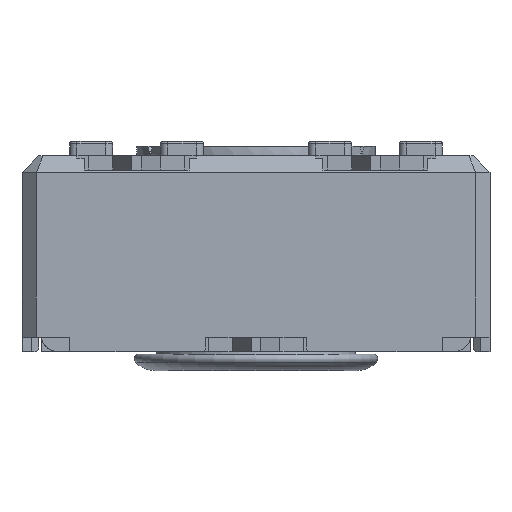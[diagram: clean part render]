
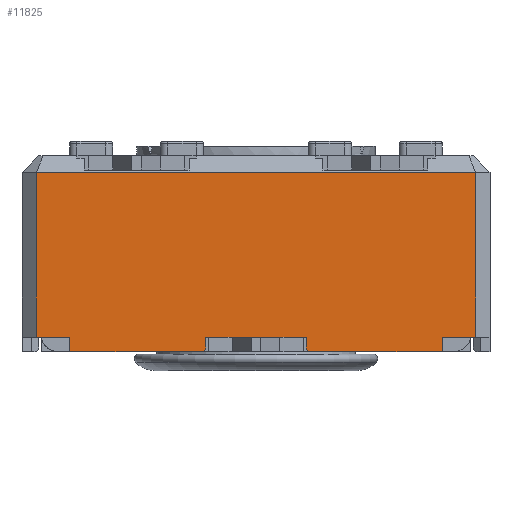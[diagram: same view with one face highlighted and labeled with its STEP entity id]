
A CAD part, front view. The second image highlights one B-rep face of the part: STEP entity #11825.
In plain terms, the highlighted planar face has unit normal (0, -1, 0).
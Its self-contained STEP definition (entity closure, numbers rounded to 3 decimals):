
#917=PLANE('',#12707);
#1512=FACE_OUTER_BOUND('',#2123,.T.);
#2123=EDGE_LOOP('',(#11009,#11010,#11011,#11012,#11013,#11014,#11015,#11016,
#11017,#11018,#11019,#11020,#11021,#11022,#11023,#11024));
#2670=LINE('',#17367,#4046);
#2772=LINE('',#17583,#4148);
#2778=LINE('',#17595,#4154);
#2786=LINE('',#17611,#4162);
#2792=LINE('',#17622,#4168);
#2984=LINE('',#18199,#4360);
#2990=LINE('',#18209,#4366);
#2993=LINE('',#18216,#4369);
#3006=LINE('',#18241,#4382);
#3062=LINE('',#18349,#4438);
#3064=LINE('',#18354,#4440);
#3066=LINE('',#18357,#4442);
#3068=LINE('',#18362,#4444);
#3254=LINE('',#18807,#4630);
#3497=LINE('',#19368,#4873);
#3499=LINE('',#19375,#4875);
#4046=VECTOR('',#13948,10.);
#4148=VECTOR('',#14128,10.);
#4154=VECTOR('',#14134,10.);
#4162=VECTOR('',#14144,10.);
#4168=VECTOR('',#14150,10.);
#4360=VECTOR('',#14674,10.);
#4366=VECTOR('',#14682,10.);
#4369=VECTOR('',#14689,10.);
#4382=VECTOR('',#14710,10.);
#4438=VECTOR('',#14810,10.);
#4440=VECTOR('',#14818,10.);
#4442=VECTOR('',#14822,10.);
#4444=VECTOR('',#14830,10.);
#4630=VECTOR('',#15254,10.);
#4873=VECTOR('',#15793,10.);
#4875=VECTOR('',#15805,10.);
#5378=VERTEX_POINT('',#17361);
#5379=VERTEX_POINT('',#17365);
#5454=VERTEX_POINT('',#17582);
#5459=VERTEX_POINT('',#17592);
#5460=VERTEX_POINT('',#17594);
#5466=VERTEX_POINT('',#17608);
#5467=VERTEX_POINT('',#17610);
#5472=VERTEX_POINT('',#17620);
#5636=VERTEX_POINT('',#18197);
#5637=VERTEX_POINT('',#18198);
#5640=VERTEX_POINT('',#18207);
#5641=VERTEX_POINT('',#18214);
#5642=VERTEX_POINT('',#18215);
#5650=VERTEX_POINT('',#18240);
#5795=VERTEX_POINT('',#18804);
#5796=VERTEX_POINT('',#18806);
#6669=EDGE_CURVE('',#5378,#5379,#2670,.T.);
#6777=EDGE_CURVE('',#5454,#5378,#2772,.T.);
#6783=EDGE_CURVE('',#5460,#5459,#2778,.T.);
#6791=EDGE_CURVE('',#5467,#5466,#2786,.T.);
#6797=EDGE_CURVE('',#5379,#5472,#2792,.T.);
#7067=EDGE_CURVE('',#5636,#5637,#2984,.T.);
#7073=EDGE_CURVE('',#5636,#5640,#2990,.T.);
#7076=EDGE_CURVE('',#5641,#5642,#2993,.T.);
#7089=EDGE_CURVE('',#5650,#5642,#3006,.T.);
#7145=EDGE_CURVE('',#5454,#5641,#3062,.T.);
#7147=EDGE_CURVE('',#5459,#5650,#3064,.T.);
#7149=EDGE_CURVE('',#5467,#5640,#3066,.T.);
#7151=EDGE_CURVE('',#5472,#5637,#3068,.T.);
#7371=EDGE_CURVE('',#5795,#5796,#3254,.T.);
#7650=EDGE_CURVE('',#5796,#5466,#3497,.T.);
#7652=EDGE_CURVE('',#5795,#5460,#3499,.T.);
#11009=ORIENTED_EDGE('',*,*,#7067,.F.);
#11010=ORIENTED_EDGE('',*,*,#7073,.T.);
#11011=ORIENTED_EDGE('',*,*,#7149,.F.);
#11012=ORIENTED_EDGE('',*,*,#6791,.T.);
#11013=ORIENTED_EDGE('',*,*,#7650,.F.);
#11014=ORIENTED_EDGE('',*,*,#7371,.F.);
#11015=ORIENTED_EDGE('',*,*,#7652,.T.);
#11016=ORIENTED_EDGE('',*,*,#6783,.T.);
#11017=ORIENTED_EDGE('',*,*,#7147,.T.);
#11018=ORIENTED_EDGE('',*,*,#7089,.T.);
#11019=ORIENTED_EDGE('',*,*,#7076,.F.);
#11020=ORIENTED_EDGE('',*,*,#7145,.F.);
#11021=ORIENTED_EDGE('',*,*,#6777,.T.);
#11022=ORIENTED_EDGE('',*,*,#6669,.T.);
#11023=ORIENTED_EDGE('',*,*,#6797,.T.);
#11024=ORIENTED_EDGE('',*,*,#7151,.T.);
#11825=ADVANCED_FACE('',(#1512),#917,.T.);
#12707=AXIS2_PLACEMENT_3D('',#19376,#15806,#15807);
#13948=DIRECTION('',(1.,0.,0.));
#14128=DIRECTION('',(1.,0.,0.));
#14134=DIRECTION('',(1.,0.,0.));
#14144=DIRECTION('',(1.,0.,0.));
#14150=DIRECTION('',(1.,0.,0.));
#14674=DIRECTION('',(-0.707,0.,0.707));
#14682=DIRECTION('',(1.,0.,0.));
#14689=DIRECTION('',(-0.707,0.,-0.707));
#14710=DIRECTION('',(1.,0.,0.));
#14810=DIRECTION('',(0.,0.,-1.));
#14818=DIRECTION('',(0.,0.,-1.));
#14822=DIRECTION('',(0.,0.,-1.));
#14830=DIRECTION('',(0.,0.,-1.));
#15254=DIRECTION('',(1.,0.,0.));
#15793=DIRECTION('',(0.,0.,-1.));
#15805=DIRECTION('',(0.,0.,-1.));
#15806=DIRECTION('center_axis',(0.,-1.,0.));
#15807=DIRECTION('ref_axis',(0.,0.,-1.));
#17361=CARTESIAN_POINT('',(-27.448,-17.99,-3.8));
#17365=CARTESIAN_POINT('',(-25.448,-17.99,-3.8));
#17367=CARTESIAN_POINT('',(-21.848,-17.99,-3.8));
#17582=CARTESIAN_POINT('',(-27.498,-17.99,-3.8));
#17583=CARTESIAN_POINT('',(-21.848,-17.99,-3.8));
#17592=CARTESIAN_POINT('',(-30.348,-17.99,-3.8));
#17594=CARTESIAN_POINT('',(-31.048,-17.99,-3.8));
#17595=CARTESIAN_POINT('',(-21.848,-17.99,-3.8));
#17608=CARTESIAN_POINT('',(-21.848,-17.99,-3.8));
#17610=CARTESIAN_POINT('',(-22.548,-17.99,-3.8));
#17611=CARTESIAN_POINT('',(-21.848,-17.99,-3.8));
#17620=CARTESIAN_POINT('',(-25.398,-17.99,-3.8));
#17622=CARTESIAN_POINT('',(-21.848,-17.99,-3.8));
#18197=CARTESIAN_POINT('',(-25.348,-17.99,-4.1));
#18198=CARTESIAN_POINT('',(-25.398,-17.99,-4.05));
#18199=CARTESIAN_POINT('',(-27.81,-17.99,-1.637));
#18207=CARTESIAN_POINT('',(-22.548,-17.99,-4.1));
#18209=CARTESIAN_POINT('',(-21.848,-17.99,-4.1));
#18214=CARTESIAN_POINT('',(-27.498,-17.99,-4.05));
#18215=CARTESIAN_POINT('',(-27.548,-17.99,-4.1));
#18216=CARTESIAN_POINT('',(-27.385,-17.99,-3.938));
#18240=CARTESIAN_POINT('',(-30.348,-17.99,-4.1));
#18241=CARTESIAN_POINT('',(-21.848,-17.99,-4.1));
#18349=CARTESIAN_POINT('',(-27.498,-17.99,-3.8));
#18354=CARTESIAN_POINT('',(-30.348,-17.99,-3.8));
#18357=CARTESIAN_POINT('',(-22.548,-17.99,-3.8));
#18362=CARTESIAN_POINT('',(-25.398,-17.99,-3.8));
#18804=CARTESIAN_POINT('',(-31.048,-17.99,-0.35));
#18806=CARTESIAN_POINT('',(-21.848,-17.99,-0.35));
#18807=CARTESIAN_POINT('',(-28.748,-17.99,-0.35));
#19368=CARTESIAN_POINT('',(-21.848,-17.99,0.));
#19375=CARTESIAN_POINT('',(-31.048,-17.99,0.));
#19376=CARTESIAN_POINT('Origin',(-31.048,-17.99,0.));
